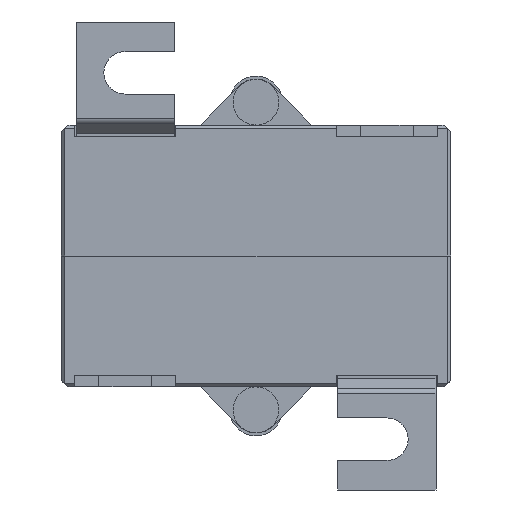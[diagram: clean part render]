
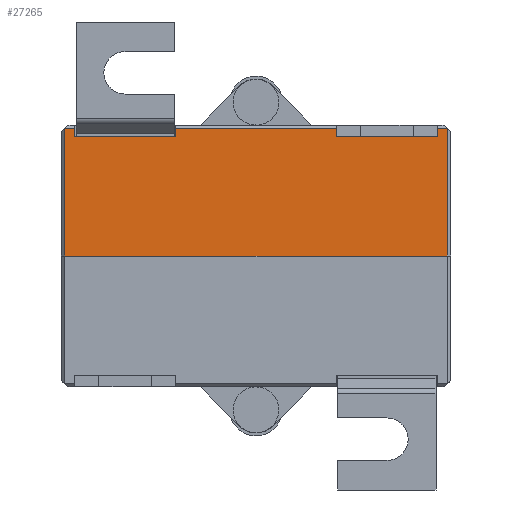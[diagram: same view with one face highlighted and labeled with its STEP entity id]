
A CAD part, front view. The second image highlights one B-rep face of the part: STEP entity #27265.
In plain terms, the highlighted planar face has unit normal (0, -1, 0).
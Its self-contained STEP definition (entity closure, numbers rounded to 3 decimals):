
#1473=PLANE('',#29088);
#2487=FACE_OUTER_BOUND('',#3996,.T.);
#3996=EDGE_LOOP('',(#19017,#19018,#19019,#19020,#19021,#19022,#19023,#19024,
#19025,#19026,#19027,#19028));
#5986=LINE('',#36794,#9022);
#5993=LINE('',#36808,#9029);
#5994=LINE('',#36810,#9030);
#5995=LINE('',#36812,#9031);
#5996=LINE('',#36814,#9032);
#5997=LINE('',#36816,#9033);
#5998=LINE('',#36818,#9034);
#5999=LINE('',#36820,#9035);
#6000=LINE('',#36822,#9036);
#6001=LINE('',#36824,#9037);
#6002=LINE('',#36826,#9038);
#6003=LINE('',#36827,#9039);
#9022=VECTOR('',#30751,10.);
#9029=VECTOR('',#30762,10.);
#9030=VECTOR('',#30763,10.);
#9031=VECTOR('',#30764,10.);
#9032=VECTOR('',#30765,10.);
#9033=VECTOR('',#30766,10.);
#9034=VECTOR('',#30767,10.);
#9035=VECTOR('',#30768,10.);
#9036=VECTOR('',#30769,10.);
#9037=VECTOR('',#30770,10.);
#9038=VECTOR('',#30771,10.);
#9039=VECTOR('',#30772,10.);
#12075=VERTEX_POINT('',#36791);
#12076=VERTEX_POINT('',#36793);
#12081=VERTEX_POINT('',#36807);
#12082=VERTEX_POINT('',#36809);
#12083=VERTEX_POINT('',#36811);
#12084=VERTEX_POINT('',#36813);
#12085=VERTEX_POINT('',#36815);
#12086=VERTEX_POINT('',#36817);
#12087=VERTEX_POINT('',#36819);
#12088=VERTEX_POINT('',#36821);
#12089=VERTEX_POINT('',#36823);
#12090=VERTEX_POINT('',#36825);
#14824=EDGE_CURVE('',#12075,#12076,#5986,.T.);
#14831=EDGE_CURVE('',#12081,#12075,#5993,.T.);
#14832=EDGE_CURVE('',#12082,#12081,#5994,.T.);
#14833=EDGE_CURVE('',#12083,#12082,#5995,.T.);
#14834=EDGE_CURVE('',#12083,#12084,#5996,.T.);
#14835=EDGE_CURVE('',#12084,#12085,#5997,.T.);
#14836=EDGE_CURVE('',#12085,#12086,#5998,.T.);
#14837=EDGE_CURVE('',#12087,#12086,#5999,.T.);
#14838=EDGE_CURVE('',#12087,#12088,#6000,.T.);
#14839=EDGE_CURVE('',#12088,#12089,#6001,.T.);
#14840=EDGE_CURVE('',#12089,#12090,#6002,.T.);
#14841=EDGE_CURVE('',#12076,#12090,#6003,.T.);
#19017=ORIENTED_EDGE('',*,*,#14824,.F.);
#19018=ORIENTED_EDGE('',*,*,#14831,.F.);
#19019=ORIENTED_EDGE('',*,*,#14832,.F.);
#19020=ORIENTED_EDGE('',*,*,#14833,.F.);
#19021=ORIENTED_EDGE('',*,*,#14834,.T.);
#19022=ORIENTED_EDGE('',*,*,#14835,.T.);
#19023=ORIENTED_EDGE('',*,*,#14836,.T.);
#19024=ORIENTED_EDGE('',*,*,#14837,.F.);
#19025=ORIENTED_EDGE('',*,*,#14838,.T.);
#19026=ORIENTED_EDGE('',*,*,#14839,.T.);
#19027=ORIENTED_EDGE('',*,*,#14840,.T.);
#19028=ORIENTED_EDGE('',*,*,#14841,.F.);
#27265=ADVANCED_FACE('',(#2487),#1473,.T.);
#29088=AXIS2_PLACEMENT_3D('',#36806,#30760,#30761);
#30751=DIRECTION('',(0.,0.,-1.));
#30760=DIRECTION('center_axis',(0.,-1.,0.));
#30761=DIRECTION('ref_axis',(1.,0.,0.));
#30762=DIRECTION('',(1.,0.,0.));
#30763=DIRECTION('',(0.,0.,1.));
#30764=DIRECTION('',(-1.,0.,0.));
#30765=DIRECTION('',(0.,0.,1.));
#30766=DIRECTION('',(1.,0.,0.));
#30767=DIRECTION('',(0.,0.,-1.));
#30768=DIRECTION('',(-1.,0.,0.));
#30769=DIRECTION('',(0.,0.,1.));
#30770=DIRECTION('',(1.,0.,0.));
#30771=DIRECTION('',(0.,0.,-1.));
#30772=DIRECTION('',(-1.,0.,0.));
#36791=CARTESIAN_POINT('',(29.25,0.,20.));
#36793=CARTESIAN_POINT('',(29.25,0.,0.5));
#36794=CARTESIAN_POINT('',(29.25,0.,0.));
#36806=CARTESIAN_POINT('Origin',(-29.75,0.,0.));
#36807=CARTESIAN_POINT('',(-29.25,0.,20.));
#36808=CARTESIAN_POINT('',(-29.75,0.,20.));
#36809=CARTESIAN_POINT('',(-29.25,0.,0.5));
#36810=CARTESIAN_POINT('',(-29.25,0.,0.));
#36811=CARTESIAN_POINT('',(-27.7,0.,0.5));
#36812=CARTESIAN_POINT('',(-14.875,0.,0.5));
#36813=CARTESIAN_POINT('',(-27.7,0.,1.8));
#36814=CARTESIAN_POINT('',(-27.7,0.,0.));
#36815=CARTESIAN_POINT('',(-12.3,0.,1.8));
#36816=CARTESIAN_POINT('',(-24.875,0.,1.8));
#36817=CARTESIAN_POINT('',(-12.3,0.,0.5));
#36818=CARTESIAN_POINT('',(-12.3,0.,0.));
#36819=CARTESIAN_POINT('',(12.3,0.,0.5));
#36820=CARTESIAN_POINT('',(-14.875,0.,0.5));
#36821=CARTESIAN_POINT('',(12.3,0.,1.8));
#36822=CARTESIAN_POINT('',(12.3,0.,0.));
#36823=CARTESIAN_POINT('',(27.7,0.,1.8));
#36824=CARTESIAN_POINT('',(-4.875,0.,1.8));
#36825=CARTESIAN_POINT('',(27.7,0.,0.5));
#36826=CARTESIAN_POINT('',(27.7,0.,0.));
#36827=CARTESIAN_POINT('',(-14.875,0.,0.5));
